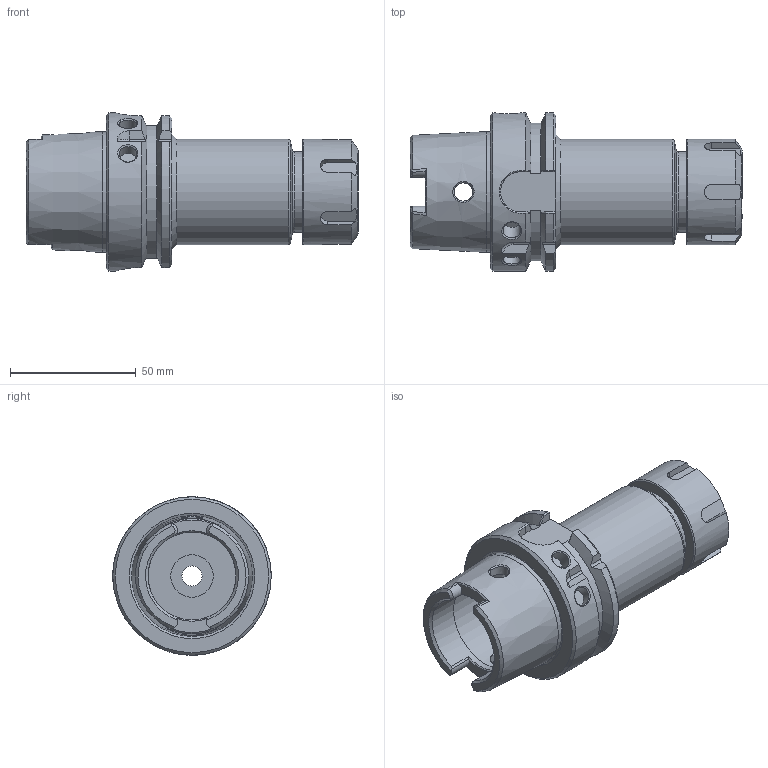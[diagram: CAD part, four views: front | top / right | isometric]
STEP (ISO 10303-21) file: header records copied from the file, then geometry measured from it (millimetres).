
FILE_DESCRIPTION(/* description */ (''),/* implementation_level */ '2;1');
FILE_NAME(/* name */ 'HSK63A-ER25-100.stp',/* time_stamp */ '2025-10-06T13:13:25+03:00',/* author */ ('User'),/* organization */ (''),/* preprocessor_version */ 'ST-DEVELOPER v19.2',/* originating_system */ 'Autodesk Inventor 2024',/* authorisation */ '');
FILE_SCHEMA (('AUTOMOTIVE_DESIGN { 1 0 10303 214 3 1 1 }'));
Length unit declared in the file: millimetre
Products named in the file (3): HSK63A-ER25-100; HSK63A-ER40-75; ER25-M
Assembly tree (2 placements, depth 2):
  HSK63A-ER25-100
    HSK63A-ER40-75
    ER25-M
Bounding box: 132 x 63 x 63 mm (x, y, z)
Volume: 155146.7 mm3; surface area: 40432.4 mm2
Topology: 2 solids, 2 shells, 169 faces, 468 edges, 313 vertices
Faces by surface type: plane 68, cylinder 38, cone 32, bspline 25, torus 6
Full cylindrical faces by diameter (mm): 7 x2, 8 x1, 10 x1, 15 x1, 16.917 x1, 20.535 x1, 25.6 x1, 30.6 x2, 32 x1, 34.96 x2, 38.96 x1, 42 x2, 47.9 x1, 63 x1
Entity records: 7126 total; most frequent: CARTESIAN_POINT 2951, ORIENTED_EDGE 936, DIRECTION 703, EDGE_CURVE 468, VERTEX_POINT 313, AXIS2_PLACEMENT_3D 280, EDGE_LOOP 187, FACE_OUTER_BOUND 169
